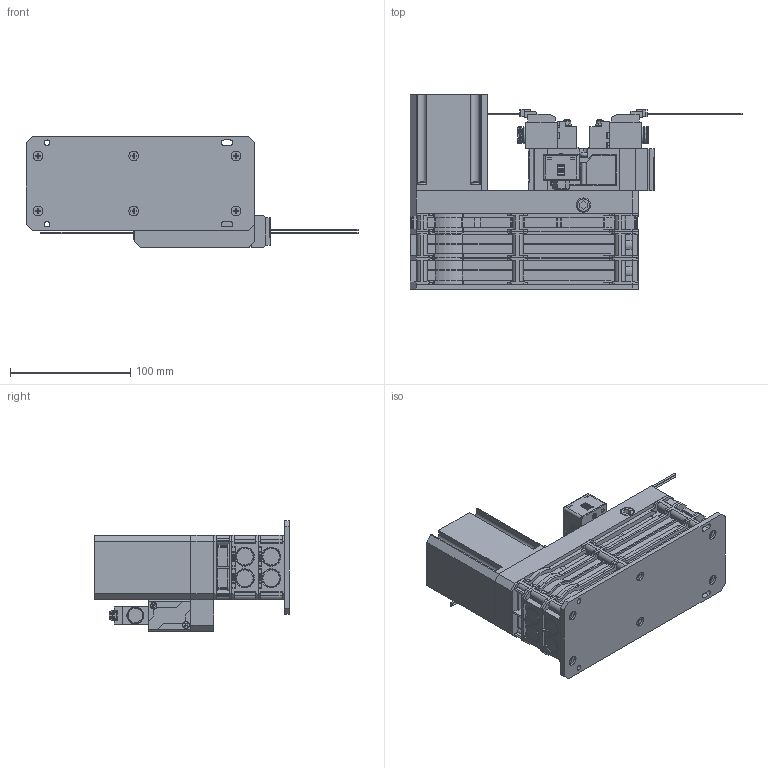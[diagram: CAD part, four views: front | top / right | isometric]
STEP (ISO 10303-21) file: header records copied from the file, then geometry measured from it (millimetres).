
FILE_DESCRIPTION(('STEP AP203'),'1');
FILE_NAME('BCVZ-3,4-SSN-V_3D.stp','2024-08-30T09:25:47',(' '),(' '),'Spatial InterOp 3D',' ',' ');
FILE_SCHEMA(('CONFIG_CONTROL_DESIGN'));
Length unit declared in the file: millimetre
Products named in the file (27): BCVZ-3,4-SSN-V; BCVZ-3,4-V-S 공급베이스; MPS-V60DL-R1-J-S1; CVZ-S_silencer; CZS-U2_unit; CVZ-U1_unit; BCVZ-B_base; PG2_____; NONE; BCVZ-3,4-V 밸브; 볼트; NAUO8; NAUO5; NAUO12; NAUO9; NAUO10; NAUO11
Assembly tree (38 placements, depth 4):
  BCVZ-3,4-SSN-V
    BCVZ-3,4-V-S 공급베이스
    MPS-V60DL-R1-J-S1
    CVZ-S_silencer
    CZS-U2_unit
    CVZ-U1_unit  x2
    BCVZ-B_base
    BCVZ-3,4-V 밸브
      PG2_____
        NONE  x2
        NONE
      볼트
      볼트
      PG2_____
        NONE  x2
        NONE
      NAUO8  x2
      NAUO5  x2
      NAUO5  x2
      NAUO5  x2
      NAUO5  x2
      NAUO5  x2
      NAUO12  x2
      NAUO12  x2
      NAUO9  x2
      NAUO10
      NAUO11
Bounding box: 276.65 x 162 x 92.2 mm (x, y, z)
Volume: 1090747.4 mm3; surface area: 270576.7 mm2
Topology: 35 solids, 35 shells, 3196 faces, 8710 edges, 5762 vertices
Faces by surface type: plane 1992, cylinder 1071, cone 85, torus 38, bspline 6, sphere 4
Full cylindrical faces by diameter (mm): 1 x1, 2.459 x2, 3.3 x2, 4 x6, 4.134 x1, 4.5 x2, 6.7 x2, 7 x4, 8 x9, 8.647 x1, 11.676 x1, 12 x2, 24 x1, 30.864 x1
Entity records: 75545 total; most frequent: CARTESIAN_POINT 14951, ORIENTED_EDGE 12344, DIRECTION 12335, EDGE_CURVE 6172, LINE 4325, VECTOR 4325, VERTEX_POINT 4130, AXIS2_PLACEMENT_3D 4005
